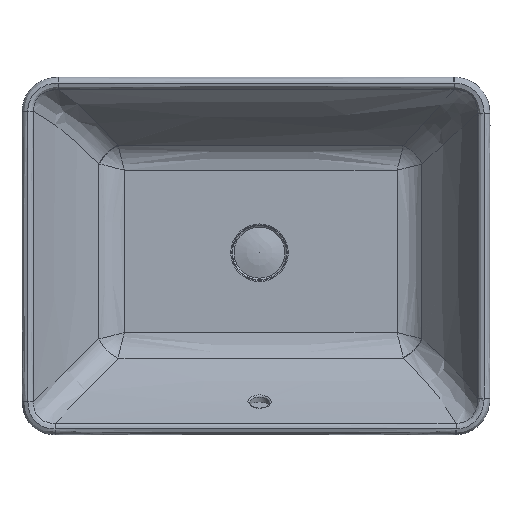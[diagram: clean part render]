
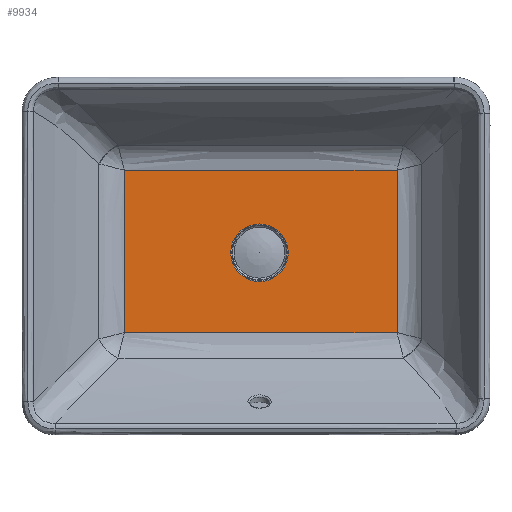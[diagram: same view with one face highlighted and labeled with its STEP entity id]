
A CAD part, top view. The second image highlights one B-rep face of the part: STEP entity #9934.
In plain terms, the highlighted planar face has unit normal (0, 0, 1) as drawn and (0, 0, -1) by its records, which use the part's own axes.
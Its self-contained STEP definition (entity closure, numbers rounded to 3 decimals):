
#6733=CARTESIAN_POINT('',(73.262,-95.277,121.36));
#6734=VERTEX_POINT('',#6733);
#6753=CARTESIAN_POINT('',(73.262,-286.601,121.36));
#6754=VERTEX_POINT('',#6753);
#6755=CARTESIAN_POINT('',(73.262,-95.277,121.36));
#6756=CARTESIAN_POINT('',(73.262,-159.052,121.36));
#6757=CARTESIAN_POINT('',(73.262,-222.826,121.36));
#6758=CARTESIAN_POINT('',(73.262,-286.601,121.36));
#6759=B_SPLINE_CURVE_WITH_KNOTS('',3,(#6755,#6756,#6757,#6758),.UNSPECIFIED.,.F.,.U.,(4,4),(-22.209,-3.076),.UNSPECIFIED.);
#6760=EDGE_CURVE('',#6734,#6754,#6759,.T.);
#6844=CARTESIAN_POINT('',(394.585,-286.601,121.36));
#6845=VERTEX_POINT('',#6844);
#6846=CARTESIAN_POINT('',(73.262,-286.601,121.36));
#6847=CARTESIAN_POINT('',(180.37,-286.601,121.36));
#6848=CARTESIAN_POINT('',(287.478,-286.601,121.36));
#6849=CARTESIAN_POINT('',(394.585,-286.601,121.36));
#6850=B_SPLINE_CURVE_WITH_KNOTS('',3,(#6846,#6847,#6848,#6849),.UNSPECIFIED.,.F.,.U.,(4,4),(-35.325,-3.192),.UNSPECIFIED.);
#6851=EDGE_CURVE('',#6754,#6845,#6850,.T.);
#6905=CARTESIAN_POINT('',(394.585,-95.277,121.36));
#6906=VERTEX_POINT('',#6905);
#6948=CARTESIAN_POINT('',(394.585,-286.601,121.36));
#6949=CARTESIAN_POINT('',(394.585,-222.826,121.36));
#6950=CARTESIAN_POINT('',(394.585,-159.052,121.36));
#6951=CARTESIAN_POINT('',(394.585,-95.277,121.36));
#6952=B_SPLINE_CURVE_WITH_KNOTS('',3,(#6948,#6949,#6950,#6951),.UNSPECIFIED.,.F.,.U.,(4,4),(-22.414,-3.282),.UNSPECIFIED.);
#6953=EDGE_CURVE('',#6845,#6906,#6952,.T.);
#7289=CARTESIAN_POINT('',(394.585,-95.277,121.36));
#7290=CARTESIAN_POINT('',(287.478,-95.277,121.36));
#7291=CARTESIAN_POINT('',(180.37,-95.277,121.36));
#7292=CARTESIAN_POINT('',(73.262,-95.277,121.36));
#7293=B_SPLINE_CURVE_WITH_KNOTS('',3,(#7289,#7290,#7291,#7292),.UNSPECIFIED.,.F.,.U.,(4,4),(-35.107,-2.975),.UNSPECIFIED.);
#7294=EDGE_CURVE('',#6906,#6734,#7293,.T.);
#9912=CARTESIAN_POINT('',(56.272,-192.43,121.36));
#9913=DIRECTION('',(0.0,0.0,-1.0));
#9914=DIRECTION('',(-1.0,0.0,0.0));
#9915=AXIS2_PLACEMENT_3D('',#9912,#9913,#9914);
#9916=PLANE('',#9915);
#9917=ORIENTED_EDGE('',*,*,#7294,.F.);
#9918=ORIENTED_EDGE('',*,*,#6953,.F.);
#9919=ORIENTED_EDGE('',*,*,#6851,.F.);
#9920=ORIENTED_EDGE('',*,*,#6760,.F.);
#9921=EDGE_LOOP('',(#9917,#9918,#9919,#9920));
#9922=FACE_OUTER_BOUND('',#9921,.T.);
#9923=CARTESIAN_POINT('',(269.293,-192.43,121.36));
#9924=VERTEX_POINT('',#9923);
#9925=CARTESIAN_POINT('',(235.415,-192.43,121.36));
#9926=DIRECTION('',(0.0,0.0,-1.0));
#9927=DIRECTION('',(-1.0,0.0,0.0));
#9928=AXIS2_PLACEMENT_3D('',#9925,#9926,#9927);
#9929=CIRCLE('',#9928,33.878);
#9930=EDGE_CURVE('',#9924,#9924,#9929,.T.);
#9931=ORIENTED_EDGE('',*,*,#9930,.F.);
#9932=EDGE_LOOP('',(#9931));
#9933=FACE_BOUND('',#9932,.T.);
#9934=ADVANCED_FACE('',(#9922,#9933),#9916,.T.);
